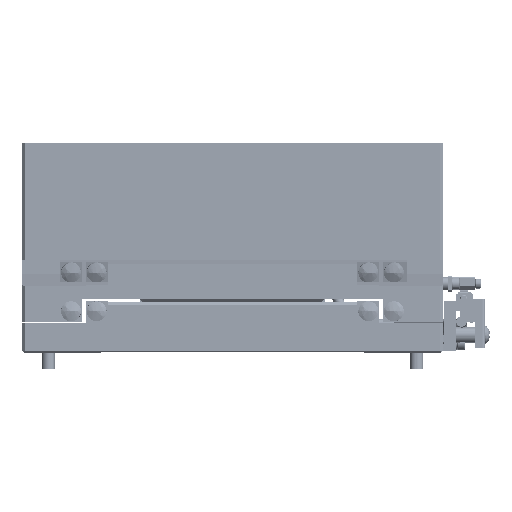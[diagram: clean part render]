
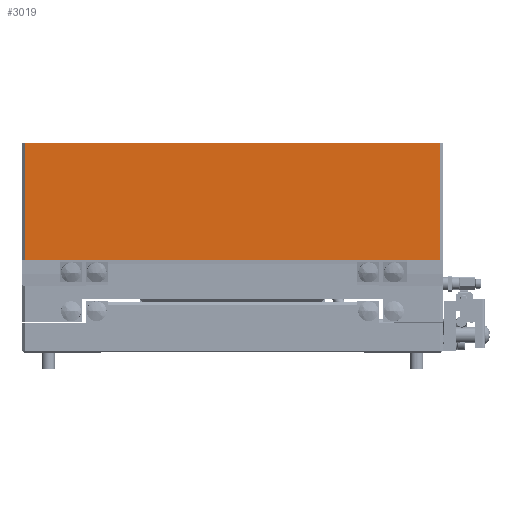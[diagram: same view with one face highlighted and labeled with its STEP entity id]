
A CAD part, left-side view. The second image highlights one B-rep face of the part: STEP entity #3019.
In plain terms, the highlighted planar face has unit normal (-1, 0, 0).
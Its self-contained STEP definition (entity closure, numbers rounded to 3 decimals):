
#3019=ADVANCED_FACE('',(#32307),#32306,.T.);
#32306=PLANE('',#68336);
#32307=FACE_OUTER_BOUND('',#68337,.T.);
#68333=CARTESIAN_POINT('',(-80.,89.,31.05));
#68334=DIRECTION('',(-1.,0.,0.));
#68335=DIRECTION('',(0.,-1.,0.));
#68336=AXIS2_PLACEMENT_3D('',#68333,#68334,#68335);
#68337=EDGE_LOOP('',(#93435,#93436,#93437,#93438));
#93435=ORIENTED_EDGE('',*,*,#107152,.T.);
#93436=ORIENTED_EDGE('',*,*,#107163,.T.);
#93437=ORIENTED_EDGE('',*,*,#107164,.F.);
#93438=ORIENTED_EDGE('',*,*,#107165,.T.);
#107152=EDGE_CURVE('',#154296,#154289,#154297,.T.);
#107163=EDGE_CURVE('',#154289,#154370,#154371,.T.);
#107164=EDGE_CURVE('',#154377,#154370,#154378,.T.);
#107165=EDGE_CURVE('',#154377,#154296,#154384,.T.);
#154289=VERTEX_POINT('',#204293);
#154296=VERTEX_POINT('',#204297);
#154297=LINE('',#204298,#204299);
#154370=VERTEX_POINT('',#204342);
#154371=LINE('',#204343,#204344);
#154377=VERTEX_POINT('',#204346);
#154378=LINE('',#204347,#204348);
#154384=LINE('',#204350,#204351);
#204293=CARTESIAN_POINT('',(-80.,-79.,35.5));
#204297=CARTESIAN_POINT('',(-80.,79.,35.5));
#204298=CARTESIAN_POINT('',(-80.,79.,35.5));
#204299=VECTOR('',#204300,158.);
#204300=DIRECTION('',(0.,-1.,0.));
#204342=CARTESIAN_POINT('',(-80.,-79.,80.));
#204343=CARTESIAN_POINT('',(-80.,-79.,35.5));
#204344=VECTOR('',#204345,44.5);
#204345=DIRECTION('',(0.,0.,1.));
#204346=CARTESIAN_POINT('',(-80.,79.,80.));
#204347=CARTESIAN_POINT('',(-80.,79.,80.));
#204348=VECTOR('',#204349,158.);
#204349=DIRECTION('',(0.,-1.,0.));
#204350=CARTESIAN_POINT('',(-80.,79.,80.));
#204351=VECTOR('',#204352,44.5);
#204352=DIRECTION('',(0.,0.,-1.));
